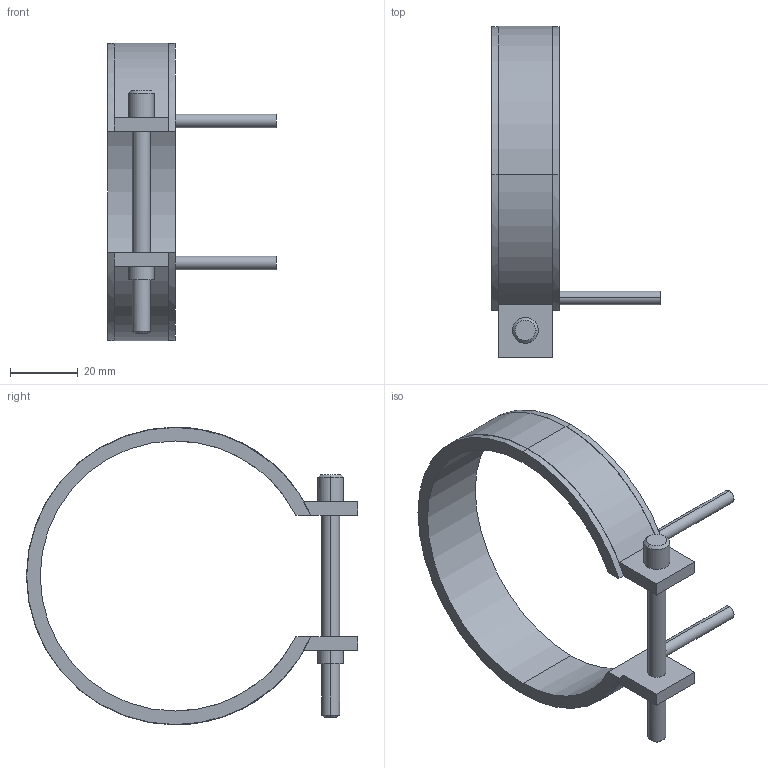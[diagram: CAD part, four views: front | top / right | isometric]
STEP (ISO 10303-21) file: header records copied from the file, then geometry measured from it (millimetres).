
FILE_DESCRIPTION(('CATIA V5 STEP Exchange'),'2;1');
FILE_NAME('C:\Users\Utente\Desktop\IO LAVORO\3D X SITO CF\X SITO\PLASTICA\RF2\14080020.stp','2021-04-03T08:41:19+00:00',('none'),('none'),'CATIA Version 5 Release 20 GA (IN-10)','CATIA V5 STEP AP203','none');
FILE_SCHEMA(('CONFIG_CONTROL_DESIGN'));
Length unit declared in the file: millimetre
Products named in the file (1): 14080020
Bounding box: 50 x 98.1 x 88.2 mm (x, y, z)
Volume: 22853 mm3; surface area: 14130.8 mm2
Topology: 1 solids, 1 shells, 45 faces, 116 edges, 76 vertices
Faces by surface type: cylinder 24, plane 17, cone 4
Entity records: 1418 total; most frequent: CARTESIAN_POINT 296, ORIENTED_EDGE 232, DIRECTION 194, EDGE_CURVE 116, AXIS2_PLACEMENT_3D 102, VERTEX_POINT 76, CIRCLE 60, VECTOR 52
